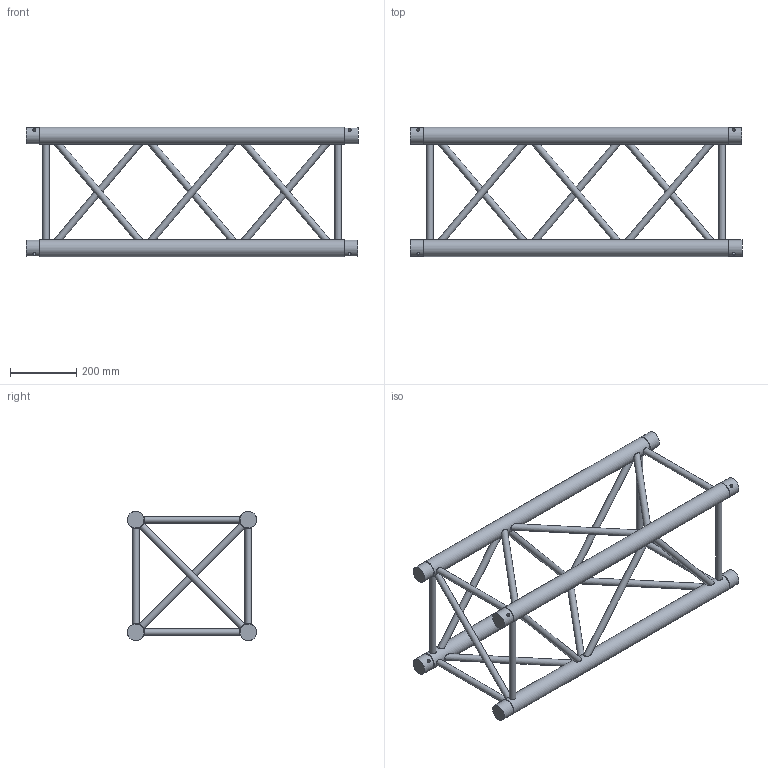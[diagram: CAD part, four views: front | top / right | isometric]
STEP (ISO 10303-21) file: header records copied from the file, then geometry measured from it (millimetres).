
FILE_DESCRIPTION(/* description */ (''),/* implementation_level */ '2;1');
FILE_NAME(/* name */ 'M:\Symbolen\STP\40-er truss\111080194.stp',/* time_stamp */ '2015-02-26T15:21:11+01:00',/* author */ ('Stephan'),/* organization */ (''),/* preprocessor_version */ 'ST-DEVELOPER v15.6',/* originating_system */ 'Autodesk Inventor 2015',/* authorisation */ '');
FILE_SCHEMA (('AUTOMOTIVE_DESIGN { 1 0 10303 214 3 1 1 }'));
Length unit declared in the file: millimetre
Products named in the file (1): 160023953
Bounding box: 1000 x 389.98 x 389.98 mm (x, y, z)
Volume: 6230312.5 mm3; surface area: 1167740.3 mm2
Topology: 6 solids, 26 shells, 150 faces, 254 edges, 156 vertices
Faces by surface type: plane 100, cylinder 42, cone 8
Full cylindrical faces by diameter (mm): 10 x8, 20 x22, 49.5 x8, 51 x4
Entity records: 4137 total; most frequent: CARTESIAN_POINT 1047, DIRECTION 574, ORIENTED_EDGE 456, AXIS2_PLACEMENT_3D 267, EDGE_LOOP 264, EDGE_CURVE 188, STYLED_ITEM 153, FACE_OUTER_BOUND 150
